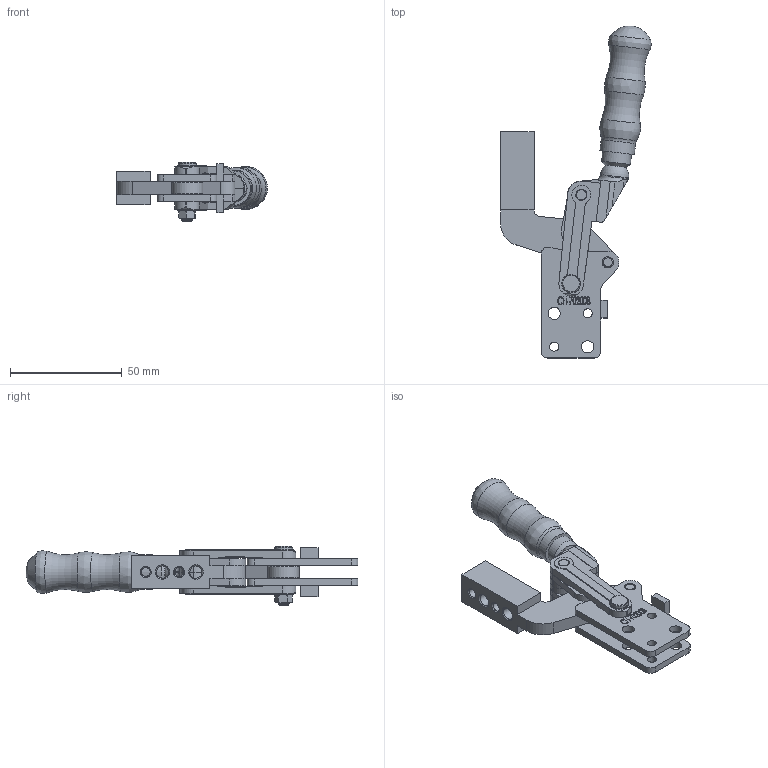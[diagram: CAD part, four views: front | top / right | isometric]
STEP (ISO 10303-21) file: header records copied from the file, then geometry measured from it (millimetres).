
FILE_DESCRIPTION(/* description */ ('STEP AP203'),/* implementation_level */ '2;1');
FILE_NAME(/* name */ 'E:\CAD_CLAMPS\Heavy duty weldables\CH-70200B_DODAC\CH-70200B_ZAMKNIETY.stp',/* time_stamp */ '2019-03-11T14:20:33+01:00',/* author */ ('Admin'),/* organization */ ('Î¢ÈíÖÐ¹ú'),/* preprocessor_version */ 'ST-DEVELOPER v17.2',/* originating_system */ 'Autodesk Inventor 2019',/* authorisation */ '');
FILE_SCHEMA (('AUTOMOTIVE_DESIGN { 1 0 10303 214 3 1 1 }'));
Length unit declared in the file: millimetre
Products named in the file (13): CH-70200B_OTWARTY; Ì×_Ä¬ÈÏ; µ×·´_Ä¬ÈÏ; ÂÝ¸Ë_Ä¬ÈÏ_1; m5ÂÝÄ¸_Ä¬ÈÏ_1; ti_Ä¬ÈÏ_1; ÊÖ±ú_Ä¬ÈÏ_1; ¶ÌÖá_Ä¬ÈÏ; ¸ôÌ×_Ä¬ÈÏ_1; µ×Õý_Ä¬ÈÏ; Á¬¸Ë_Ä¬ÈÏ_1; Ñ¹°Ñ_Ä¬ÈÏ_1; ³¤Öá_Ä¬ÈÏ_1
Assembly tree (14 placements, depth 2):
  CH-70200B_OTWARTY
    Ì×_Ä¬ÈÏ
    µ×·´_Ä¬ÈÏ
    Á¬¸Ë_Ä¬ÈÏ_1  x2
    ÂÝ¸Ë_Ä¬ÈÏ_1
    m5ÂÝÄ¸_Ä¬ÈÏ_1
    ¶ÌÖá_Ä¬ÈÏ  x2
    ti_Ä¬ÈÏ_1
    ÊÖ±ú_Ä¬ÈÏ_1
    ¸ôÌ×_Ä¬ÈÏ_1
    µ×Õý_Ä¬ÈÏ
    Ñ¹°Ñ_Ä¬ÈÏ_1
    ³¤Öá_Ä¬ÈÏ_1
Bounding box: 67.53 x 148.65 x 26.5 mm (x, y, z)
Volume: 44457.4 mm3; surface area: 30214.6 mm2
Topology: 15 solids, 15 shells, 1217 faces, 3252 edges, 2193 vertices
Faces by surface type: plane 783, cylinder 276, bspline 106, cone 42, torus 8, sphere 2
Full cylindrical faces by diameter (mm): 0.399 x1, 2.5 x1, 4 x6, 5 x37, 5.16 x1, 5.2 x1, 5.5 x6, 8 x1, 12.517 x1, 13 x1, 14 x1, 15.5 x1
Entity records: 41465 total; most frequent: CARTESIAN_POINT 16843, ORIENTED_EDGE 5232, DIRECTION 4731, EDGE_CURVE 2616, VERTEX_POINT 1769, AXIS2_PLACEMENT_3D 1594, LINE 1543, VECTOR 1543
